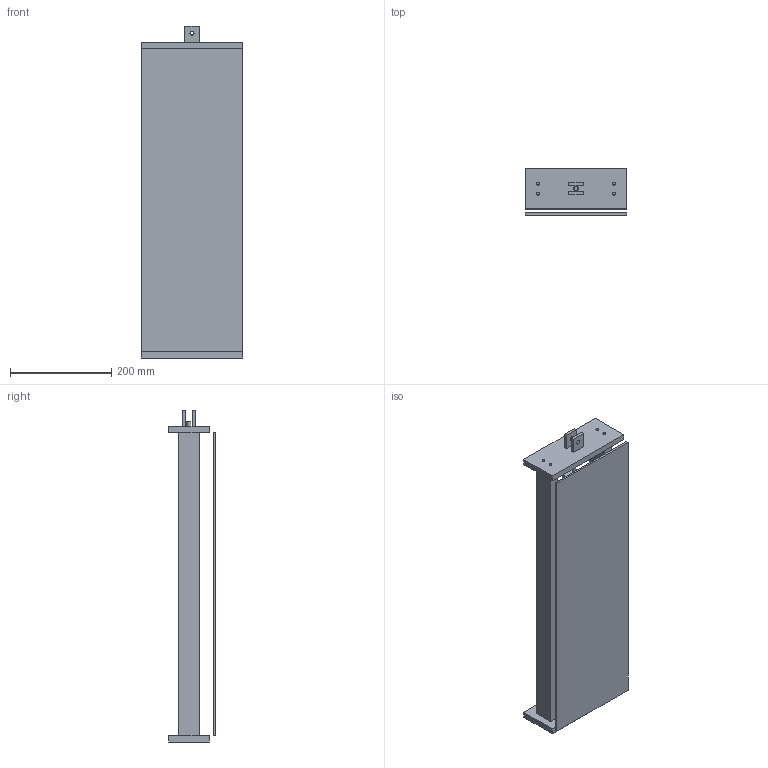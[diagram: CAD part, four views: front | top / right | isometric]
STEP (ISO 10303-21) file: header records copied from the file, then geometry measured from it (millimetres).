
FILE_DESCRIPTION(('Open CASCADE Model'),'2;1');
FILE_NAME('Open CASCADE Shape Model','2026-11-08T11:52:03',('Author'),( 'Open CASCADE'),'Open CASCADE STEP processor 7.9','Open CASCADE 7.9' ,'Unknown');
FILE_SCHEMA(('AUTOMOTIVE_DESIGN { 1 0 10303 214 1 1 1 1 }'));
Length unit declared in the file: millimetre
Products named in the file (25): Open CASCADE STEP translator 7.9 2; Open CASCADE STEP translator 7.9 2.1; Open CASCADE STEP translator 7.9 2.2; Open CASCADE STEP translator 7.9 2.3; Open CASCADE STEP translator 7.9 2.4; Open CASCADE STEP translator 7.9 2.5; Open CASCADE STEP translator 7.9 2.6; Open CASCADE STEP translator 7.9 2.7; Open CASCADE STEP translator 7.9 2.8; Open CASCADE STEP translator 7.9 2.9; Open CASCADE STEP translator 7.9 2.10; Open CASCADE STEP translator 7.9 2.11; Open CASCADE STEP translator 7.9 2.12; Open CASCADE STEP translator 7.9 2.13; Open CASCADE STEP translator 7.9 2.14; Open CASCADE STEP translator 7.9 2.15; Open CASCADE STEP translator 7.9 2.16; Open CASCADE STEP translator 7.9 2.17; Open CASCADE STEP translator 7.9 2.18; Open CASCADE STEP translator 7.9 2.19; Open CASCADE STEP translator 7.9 2.20; Open CASCADE STEP translator 7.9 2.21; Open CASCADE STEP translator 7.9 2.22; Open CASCADE STEP translator 7.9 2.23; Open CASCADE STEP translator 7.9 2.24
Assembly tree (24 placements, depth 2):
  Open CASCADE STEP translator 7.9 2
    Open CASCADE STEP translator 7.9 2.1
    Open CASCADE STEP translator 7.9 2.2
    Open CASCADE STEP translator 7.9 2.3
    Open CASCADE STEP translator 7.9 2.4
    Open CASCADE STEP translator 7.9 2.5
    Open CASCADE STEP translator 7.9 2.6
    Open CASCADE STEP translator 7.9 2.7
    Open CASCADE STEP translator 7.9 2.8
    Open CASCADE STEP translator 7.9 2.9
    Open CASCADE STEP translator 7.9 2.10
    Open CASCADE STEP translator 7.9 2.11
    Open CASCADE STEP translator 7.9 2.12
    Open CASCADE STEP translator 7.9 2.13
    Open CASCADE STEP translator 7.9 2.14
    Open CASCADE STEP translator 7.9 2.15
    Open CASCADE STEP translator 7.9 2.16
    Open CASCADE STEP translator 7.9 2.17
    Open CASCADE STEP translator 7.9 2.18
    Open CASCADE STEP translator 7.9 2.19
    Open CASCADE STEP translator 7.9 2.20
    Open CASCADE STEP translator 7.9 2.21
    Open CASCADE STEP translator 7.9 2.22
    Open CASCADE STEP translator 7.9 2.23
    Open CASCADE STEP translator 7.9 2.24
Bounding box: 200 x 92 x 656 mm (x, y, z)
Volume: 2092700 mm3; surface area: 571176.1 mm2
Topology: 24 solids, 24 shells, 224 faces, 453 edges, 298 vertices
Faces by surface type: plane 152, cylinder 66, cone 6
Full cylindrical faces by diameter (mm): 2 x4, 2.5 x1, 3 x1, 5 x2, 5.5 x8, 6.35 x3, 8 x27, 8.5 x2, 9.525 x2, 10.795 x1, 11 x1, 12 x4, 13 x2, 15 x2, 20 x2, 24 x4
Entity records: 15043 total; most frequent: CARTESIAN_POINT 4851, DIRECTION 1919, LINE 1025, VECTOR 1025, ORIENTED_EDGE 906, PCURVE 906, DEFINITIONAL_REPRESENTATION 906, EDGE_CURVE 453
